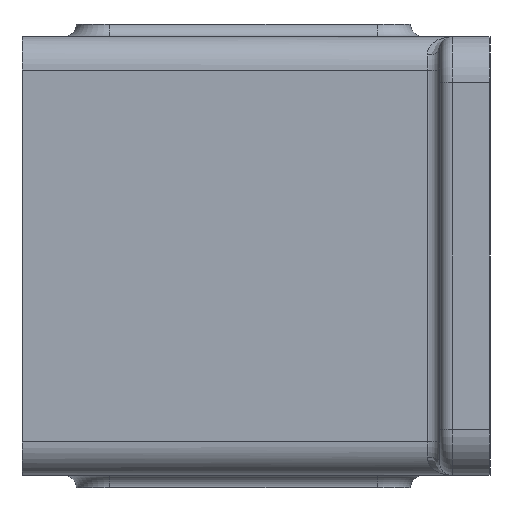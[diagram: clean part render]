
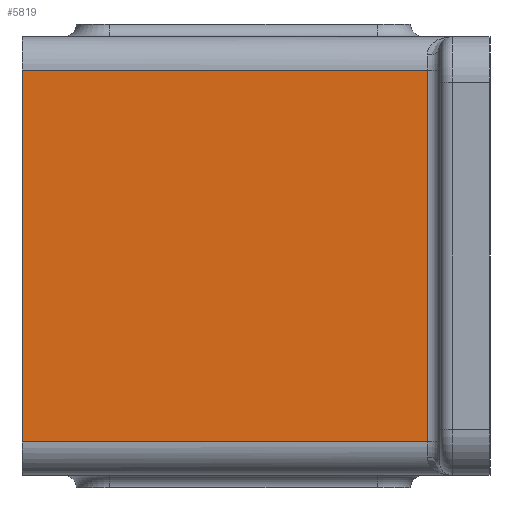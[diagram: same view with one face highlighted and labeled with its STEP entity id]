
A CAD part, left-side view. The second image highlights one B-rep face of the part: STEP entity #5819.
In plain terms, the highlighted planar face has unit normal (-1, 0, 0).
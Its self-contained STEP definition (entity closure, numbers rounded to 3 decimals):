
#645=FACE_OUTER_BOUND('',#992,.T.);
#992=EDGE_LOOP('',(#4946,#4947,#4948,#4949));
#1518=LINE('',#9976,#2028);
#1519=LINE('',#10070,#2029);
#1521=LINE('',#10076,#2031);
#1522=LINE('',#10077,#2032);
#2028=VECTOR('',#7172,10.);
#2029=VECTOR('',#7183,10.);
#2031=VECTOR('',#7189,10.);
#2032=VECTOR('',#7190,10.);
#2739=VERTEX_POINT('',#9966);
#2741=VERTEX_POINT('',#9972);
#2746=VERTEX_POINT('',#10069);
#2748=VERTEX_POINT('',#10075);
#3508=EDGE_CURVE('',#2739,#2741,#1518,.T.);
#3514=EDGE_CURVE('',#2741,#2746,#1519,.T.);
#3517=EDGE_CURVE('',#2748,#2739,#1521,.T.);
#3518=EDGE_CURVE('',#2746,#2748,#1522,.T.);
#4946=ORIENTED_EDGE('',*,*,#3508,.F.);
#4947=ORIENTED_EDGE('',*,*,#3517,.F.);
#4948=ORIENTED_EDGE('',*,*,#3518,.F.);
#4949=ORIENTED_EDGE('',*,*,#3514,.F.);
#5577=PLANE('',#6143);
#5819=ADVANCED_FACE('',(#645),#5577,.T.);
#6143=AXIS2_PLACEMENT_3D('',#10074,#7187,#7188);
#7172=DIRECTION('',(0.,0.,-1.));
#7183=DIRECTION('',(0.,1.,0.));
#7187=DIRECTION('center_axis',(-1.,0.,0.));
#7188=DIRECTION('ref_axis',(0.,0.,1.));
#7189=DIRECTION('',(0.,-1.,0.));
#7190=DIRECTION('',(0.,0.,1.));
#9966=CARTESIAN_POINT('',(-52.5,15.,44.5));
#9972=CARTESIAN_POINT('',(-52.5,15.,-44.5));
#9976=CARTESIAN_POINT('',(-52.5,15.,-26.25));
#10069=CARTESIAN_POINT('',(-52.5,112.,-44.5));
#10070=CARTESIAN_POINT('',(-52.5,6.,-44.5));
#10074=CARTESIAN_POINT('Origin',(-52.5,12.,-52.5));
#10075=CARTESIAN_POINT('',(-52.5,112.,44.5));
#10076=CARTESIAN_POINT('',(-52.5,6.,44.5));
#10077=CARTESIAN_POINT('',(-52.5,112.,-52.5));
